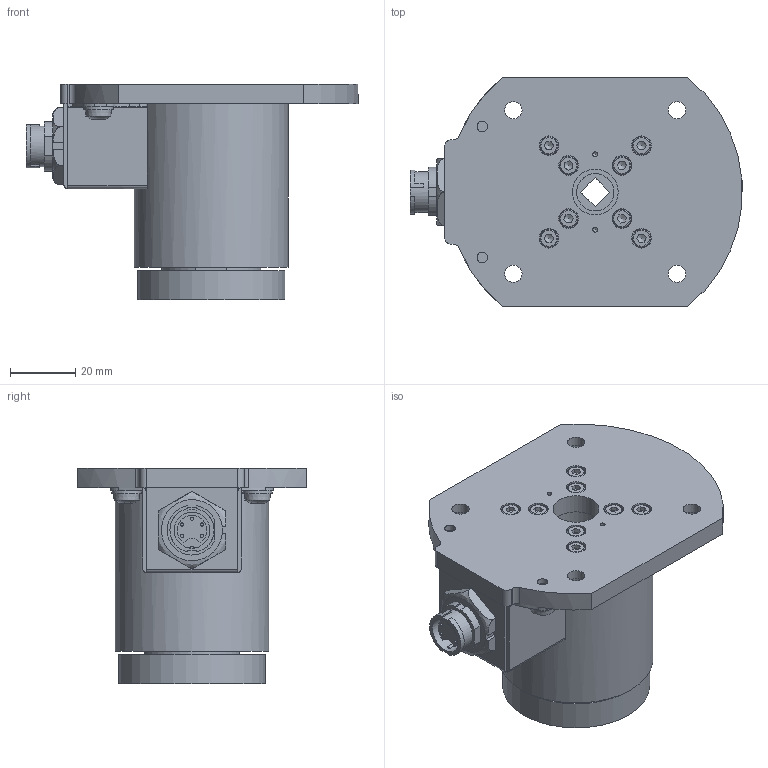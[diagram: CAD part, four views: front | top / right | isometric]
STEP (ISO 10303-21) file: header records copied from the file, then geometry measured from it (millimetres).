
FILE_DESCRIPTION((''),'2;1');
FILE_NAME('M:\Dokumentacja\RYSUNKI\PROTOTYPY\DAREK\! SIŁOMIERZ\SKRĘTNY\FSC 2-10- zespół belki.stp','2017-02-24T08:27:13',('Darek'),(''),'Autodesk Inventor 11','Autodesk Inventor 11','');
FILE_SCHEMA(('AUTOMOTIVE_DESIGN { 1 0 10303 214 1 1 1 1 }'));
Length unit declared in the file: millimetre
Products named in the file (1): Część1
Bounding box: 101.45 x 70 x 66 mm (x, y, z)
Volume: 110548.4 mm3; surface area: 48148.6 mm2
Topology: 1 solids, 17 shells, 741 faces, 1875 edges, 1202 vertices
Faces by surface type: plane 369, cylinder 209, bspline 88, cone 56, torus 17, sphere 2
Full cylindrical faces by diameter (mm): 1 x10, 1.5 x5, 2.459 x4, 3 x12, 3.65 x2, 4 x2, 4.3 x2, 5.5 x12, 9 x2, 11 x1, 11.4 x1, 12.5 x1, 13.5 x1, 14 x1, 16.5 x1, 20.5 x1, 33 x1, 45 x1, 47 x1
Entity records: 23588 total; most frequent: CARTESIAN_POINT 7319, DIRECTION 3406, ORIENTED_EDGE 3180, EDGE_CURVE 1590, AXIS2_PLACEMENT_3D 1378, VERTEX_POINT 1084, EDGE_LOOP 1009, FACE_OUTER_BOUND 741
